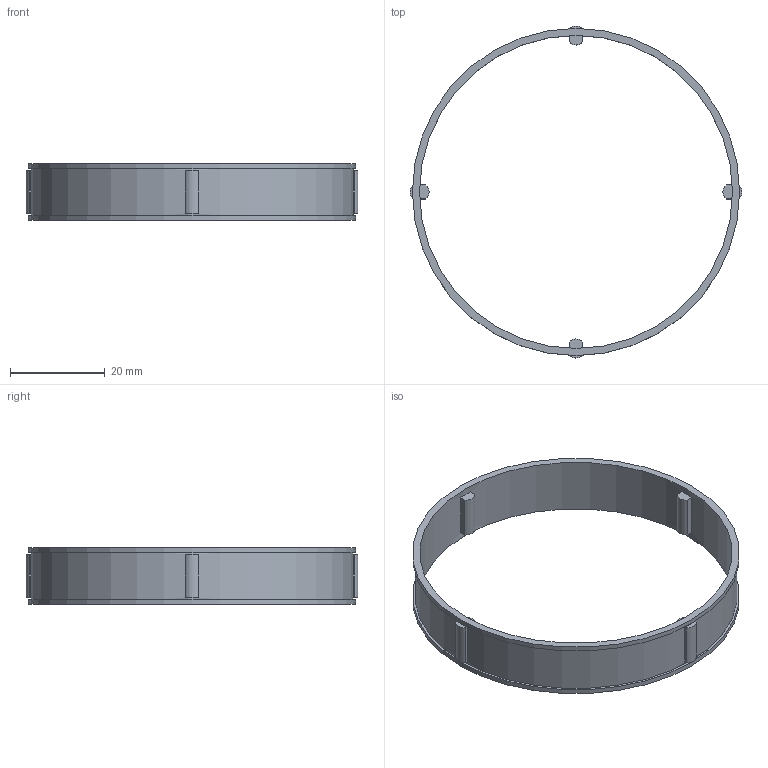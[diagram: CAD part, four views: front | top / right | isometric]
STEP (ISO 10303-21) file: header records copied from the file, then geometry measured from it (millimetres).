
FILE_DESCRIPTION(/* description */ (''),/* implementation_level */ '2;1');
FILE_NAME(/* name */ '300505 FE 470 Z.stp',/* time_stamp */ '2016-11-03T10:41:05+01:00',/* author */ (''),/* organization */ (''),/* preprocessor_version */ 'ST-DEVELOPER v15',/* originating_system */ 'SIEMENS PLM Software NX 8.5',/* authorisation */ '');
FILE_SCHEMA (('CONFIG_CONTROL_DESIGN'));
Length unit declared in the file: millimetre
Products named in the file (1): ATE0000080_01
Bounding box: 70 x 70 x 12 mm (x, y, z)
Volume: 3016.6 mm3; surface area: 6119.7 mm2
Topology: 1 solids, 1 shells, 48 faces, 114 edges, 76 vertices
Faces by surface type: plane 36, cylinder 12
Full cylindrical faces by diameter (mm): 66 x1, 68 x1, 69 x2
Entity records: 1420 total; most frequent: DIRECTION 242, CARTESIAN_POINT 225, ORIENTED_EDGE 208, EDGE_CURVE 104, AXIS2_PLACEMENT_3D 89, VERTEX_POINT 72, LINE 64, VECTOR 64
